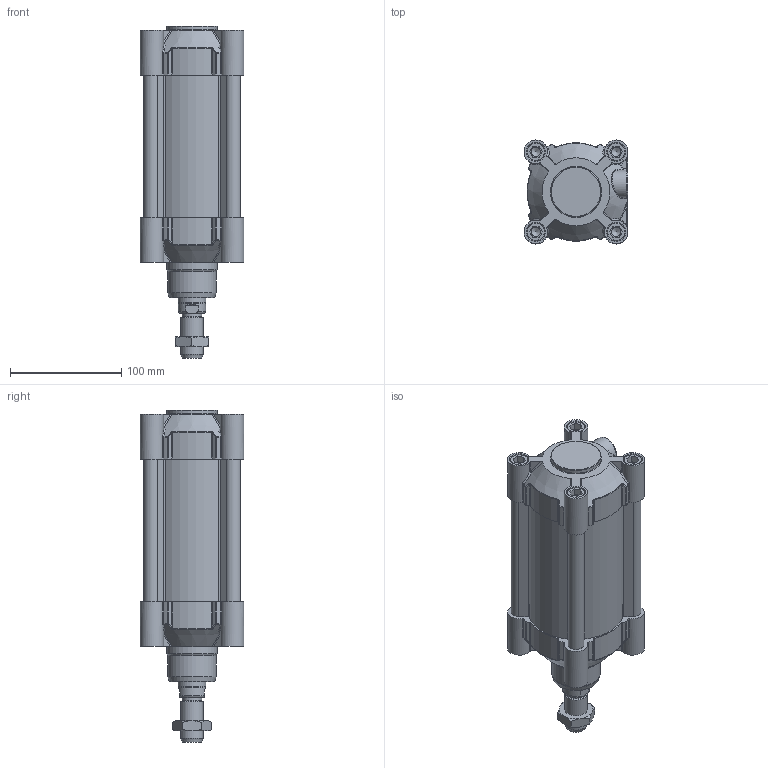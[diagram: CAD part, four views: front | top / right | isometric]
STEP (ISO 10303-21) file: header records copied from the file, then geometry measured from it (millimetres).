
FILE_DESCRIPTION(/* description */ ('Unknown'),/* implementation_level */ '2;1');
FILE_NAME(/* name */ 'HIF 80_80',/* time_stamp */ '2024-08-12T13:35:59+02:00',/* author */ ('Unknown'),/* organization */ ('Unknown'),/* preprocessor_version */ 'ST-DEVELOPER v16.7',/* originating_system */ 'Solid Edge',/* authorisation */ 'Unknown');
FILE_SCHEMA (('AUTOMOTIVE_DESIGN {1 0 10303 214 3 1 1}'));
Length unit declared in the file: millimetre
Products named in the file (6): HIF 80_80; Kit_2; Kit_1; Profilrohr 80_80; Kolbenstange 80_80; Mutter
Assembly tree (5 placements, depth 2):
  HIF 80_80
    Kit_2
    Kit_1
    Profilrohr 80_80
    Kolbenstange 80_80
    Mutter
Bounding box: 93 x 93 x 298 mm (x, y, z)
Volume: 996176.5 mm3; surface area: 281150 mm2
Topology: 5 solids, 19 shells, 1302 faces, 3172 edges, 1948 vertices
Faces by surface type: cylinder 496, plane 376, cone 144, sphere 106, torus 104, bspline 76
Full cylindrical faces by diameter (mm): 8.376 x16, 10 x8, 10.3 x8, 12 x2, 13 x2, 14.94 x2, 14.95 x2, 16 x8, 16.3 x8, 17.5 x1, 18.376 x1, 20 x1, 24.5 x1, 25 x3, 25.8 x1, 25.962 x1, 30 x2, 31.5 x2, 35 x2, 43.5 x1, 45 x2, 80 x2
Entity records: 49986 total; most frequent: CARTESIAN_POINT 13445, ORIENTED_EDGE 6094, DIRECTION 5466, EDGE_CURVE 3047, AXIS2_PLACEMENT_3D 2259, VERTEX_POINT 1931, FACE_BOUND 1464, EDGE_LOOP 1456
